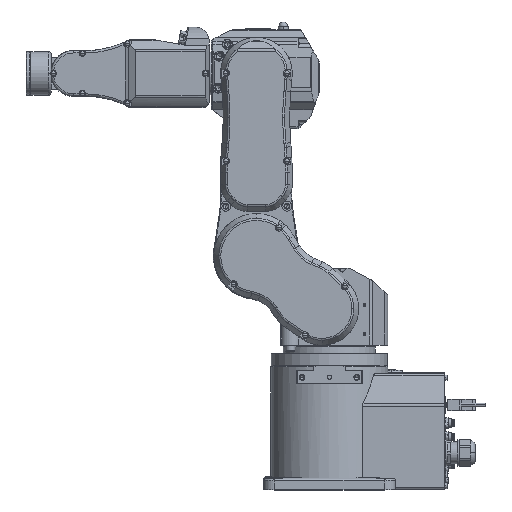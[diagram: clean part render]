
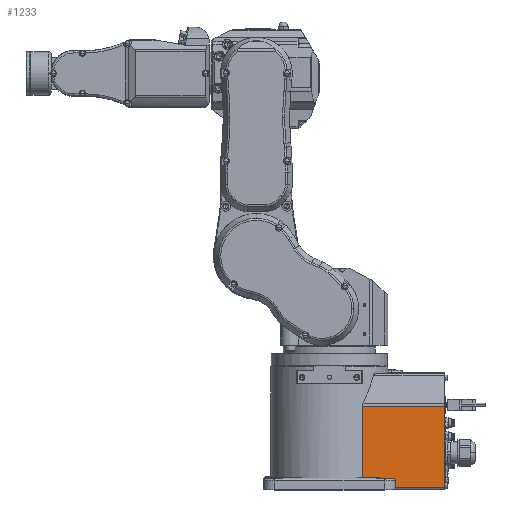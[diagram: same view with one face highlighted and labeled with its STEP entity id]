
A CAD part, top view. The second image highlights one B-rep face of the part: STEP entity #1233.
In plain terms, the highlighted planar face has unit normal (0, 0, 1).
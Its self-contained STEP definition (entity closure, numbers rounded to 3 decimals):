
#1233 = ADVANCED_FACE( '', ( #4700 ), #4701, .T. );
#4700 = FACE_OUTER_BOUND( '', #9906, .T. );
#4701 = PLANE( '', #9907 );
#9906 = EDGE_LOOP( '', ( #20004, #20005, #20006, #20007, #20008, #20009, #20010, #20011, #20012 ) );
#9907 = AXIS2_PLACEMENT_3D( '', #20013, #20014, #20015 );
#20004 = ORIENTED_EDGE( '', *, *, #34882, .F. );
#20005 = ORIENTED_EDGE( '', *, *, #34972, .F. );
#20006 = ORIENTED_EDGE( '', *, *, #34973, .F. );
#20007 = ORIENTED_EDGE( '', *, *, #34974, .F. );
#20008 = ORIENTED_EDGE( '', *, *, #34975, .F. );
#20009 = ORIENTED_EDGE( '', *, *, #34976, .F. );
#20010 = ORIENTED_EDGE( '', *, *, #34977, .T. );
#20011 = ORIENTED_EDGE( '', *, *, #34193, .T. );
#20012 = ORIENTED_EDGE( '', *, *, #34971, .F. );
#20013 = CARTESIAN_POINT( '', ( 0., 3.5, 66. ) );
#20014 = DIRECTION( '', ( 0., 0., 1. ) );
#20015 = DIRECTION( '', ( 0., -1., 0. ) );
#34193 = EDGE_CURVE( '', #41420, #41417, #41421, .T. );
#34882 = EDGE_CURVE( '', #42438, #42440, #42441, .T. );
#34971 = EDGE_CURVE( '', #42440, #41417, #42574, .T. );
#34972 = EDGE_CURVE( '', #42575, #42438, #42576, .T. );
#34973 = EDGE_CURVE( '', #42577, #42575, #42578, .T. );
#34974 = EDGE_CURVE( '', #42579, #42577, #42580, .T. );
#34975 = EDGE_CURVE( '', #42581, #42579, #42582, .T. );
#34976 = EDGE_CURVE( '', #42583, #42581, #42584, .T. );
#34977 = EDGE_CURVE( '', #42583, #41420, #42585, .T. );
#41417 = VERTEX_POINT( '', #52299 );
#41420 = VERTEX_POINT( '', #52302 );
#41421 = LINE( '', #52303, #52304 );
#42438 = VERTEX_POINT( '', #53817 );
#42440 = VERTEX_POINT( '', #53819 );
#42441 = LINE( '', #53820, #53821 );
#42574 = LINE( '', #54032, #54033 );
#42575 = VERTEX_POINT( '', #54034 );
#42576 = LINE( '', #54035, #54036 );
#42577 = VERTEX_POINT( '', #54037 );
#42578 = LINE( '', #54038, #54039 );
#42579 = VERTEX_POINT( '', #54040 );
#42580 = LINE( '', #54041, #54042 );
#42581 = VERTEX_POINT( '', #54043 );
#42582 = ELLIPSE( '', #54044, 3.501, 3.5 );
#42583 = VERTEX_POINT( '', #54045 );
#42584 = LINE( '', #54046, #54047 );
#42585 = LINE( '', #54048, #54049 );
#52299 = CARTESIAN_POINT( '', ( 157.5, 114.378, 66. ) );
#52302 = CARTESIAN_POINT( '', ( 157.5, 3.5, 66. ) );
#52303 = CARTESIAN_POINT( '', ( 157.5, 114.378, 66. ) );
#52304 = VECTOR( '', #69495, 1. );
#53817 = CARTESIAN_POINT( '', ( 45.211, 16.272, 66. ) );
#53819 = CARTESIAN_POINT( '', ( 45.211, 114.378, 66. ) );
#53820 = CARTESIAN_POINT( '', ( 45.211, 65.141, 66. ) );
#53821 = VECTOR( '', #70605, 1. );
#54032 = CARTESIAN_POINT( '', ( 0., 114.378, 66. ) );
#54033 = VECTOR( '', #70763, 1. );
#54034 = CARTESIAN_POINT( '', ( 68.675, 16.272, 66. ) );
#54035 = CARTESIAN_POINT( '', ( 45., 16.272, 66. ) );
#54036 = VECTOR( '', #70764, 1. );
#54037 = CARTESIAN_POINT( '', ( 68.675, 15., 66. ) );
#54038 = CARTESIAN_POINT( '', ( 68.675, 15.662, 66. ) );
#54039 = VECTOR( '', #70765, 1. );
#54040 = CARTESIAN_POINT( '', ( 89.199, 15., 66. ) );
#54041 = CARTESIAN_POINT( '', ( 0., 15., 66. ) );
#54042 = VECTOR( '', #70766, 1. );
#54043 = CARTESIAN_POINT( '', ( 90., 12.771, 66. ) );
#54044 = AXIS2_PLACEMENT_3D( '', #70767, #70768, #70769 );
#54045 = CARTESIAN_POINT( '', ( 90., 3.5, 66. ) );
#54046 = CARTESIAN_POINT( '', ( 90., 1.75, 66. ) );
#54047 = VECTOR( '', #70770, 1. );
#54048 = CARTESIAN_POINT( '', ( 0., 3.5, 66. ) );
#54049 = VECTOR( '', #70771, 1. );
#69495 = DIRECTION( '', ( 0., 1., 0. ) );
#70605 = DIRECTION( '', ( 0., 1., 0. ) );
#70763 = DIRECTION( '', ( 1., 0., 0. ) );
#70764 = DIRECTION( '', ( -1., 0., 0. ) );
#70765 = DIRECTION( '', ( 0., 1., 0. ) );
#70766 = DIRECTION( '', ( -1., 0., 0. ) );
#70767 = CARTESIAN_POINT( '', ( 86.5, 12.771, 66. ) );
#70768 = DIRECTION( '', ( 0., 0., 1. ) );
#70769 = DIRECTION( '', ( 0., 1., 0. ) );
#70770 = DIRECTION( '', ( 0., 1., 0. ) );
#70771 = DIRECTION( '', ( 1., 0., 0. ) );
